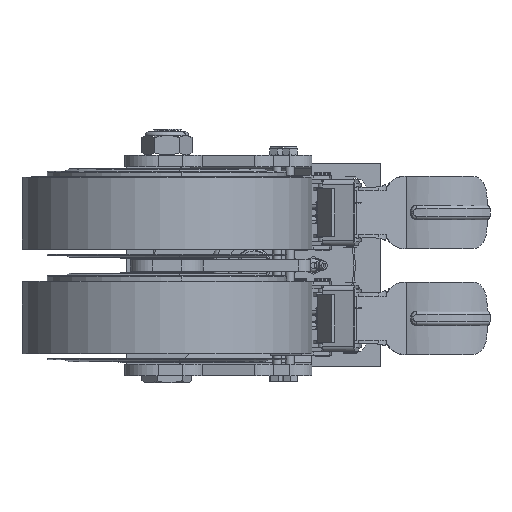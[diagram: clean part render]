
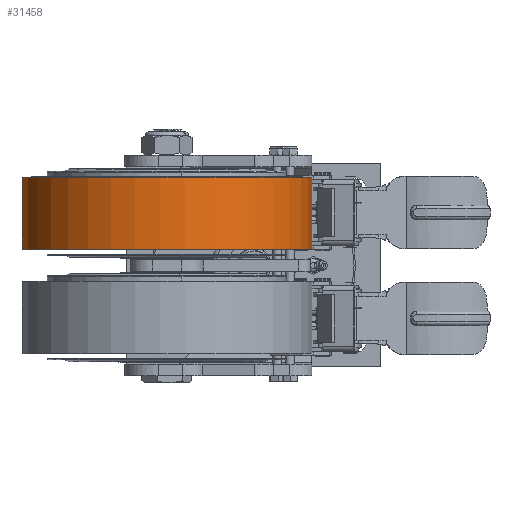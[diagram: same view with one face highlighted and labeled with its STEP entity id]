
A CAD part, left-side view. The second image highlights one B-rep face of the part: STEP entity #31458.
In plain terms, the highlighted cylindrical face has radius 100 mm (diameter 200 mm), a partial arc.
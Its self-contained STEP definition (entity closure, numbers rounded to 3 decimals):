
#30787=DIRECTION('',(0.,0.,-1.));
#30788=VECTOR('',#30787,49.5);
#30789=CARTESIAN_POINT('',(-147.382,-39.201,60.75));
#30790=LINE('',#30789,#30788);
#30791=DIRECTION('',(0.,0.,-1.));
#30792=VECTOR('',#30791,49.5);
#30793=CARTESIAN_POINT('',(-172.618,159.201,60.75));
#30794=LINE('',#30793,#30792);
#30795=CARTESIAN_POINT('',(-160.,60.,60.75));
#30796=DIRECTION('',(0.,0.,-1.));
#30797=DIRECTION('',(0.126,-0.992,0.));
#30798=AXIS2_PLACEMENT_3D('',#30795,#30796,#30797);
#30818=CARTESIAN_POINT('',(-160.,60.,11.25));
#30819=DIRECTION('',(0.,0.,-1.));
#30820=DIRECTION('',(0.126,-0.992,0.));
#30821=AXIS2_PLACEMENT_3D('',#30818,#30819,#30820);
#31146=CARTESIAN_POINT('',(-147.382,-39.201,60.75));
#31148=VERTEX_POINT('',#31146);
#31149=CARTESIAN_POINT('',(-147.382,-39.201,11.25));
#31150=VERTEX_POINT('',#31149);
#31158=CARTESIAN_POINT('',(-172.618,159.201,60.75));
#31160=VERTEX_POINT('',#31158);
#31161=CARTESIAN_POINT('',(-172.618,159.201,11.25));
#31162=VERTEX_POINT('',#31161);
#31444=CARTESIAN_POINT('',(-160.,60.,8.5));
#31445=DIRECTION('',(0.,0.,1.));
#31446=DIRECTION('',(-0.126,0.992,0.));
#31447=AXIS2_PLACEMENT_3D('',#31444,#31445,#31446);
#31448=CYLINDRICAL_SURFACE('',#31447,100.);
#31450=ORIENTED_EDGE('',*,*,#31449,.T.);
#31452=ORIENTED_EDGE('',*,*,#31451,.T.);
#31454=ORIENTED_EDGE('',*,*,#31453,.F.);
#31455=ORIENTED_EDGE('',*,*,#31430,.F.);
#31456=EDGE_LOOP('',(#31450,#31452,#31454,#31455));
#31457=FACE_OUTER_BOUND('',#31456,.F.);
#30799=CIRCLE('',#30798,100.);
#30822=CIRCLE('',#30821,100.);
#31430=EDGE_CURVE('',#31148,#31160,#30799,.T.);
#31449=EDGE_CURVE('',#31148,#31150,#30790,.T.);
#31451=EDGE_CURVE('',#31150,#31162,#30822,.T.);
#31453=EDGE_CURVE('',#31160,#31162,#30794,.T.);
#31458=ADVANCED_FACE('',(#31457),#31448,.T.);
